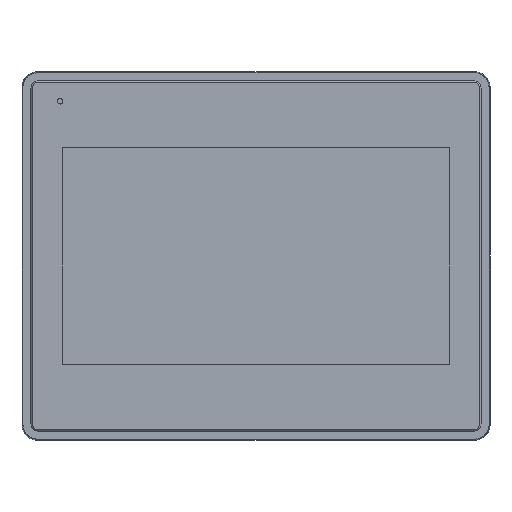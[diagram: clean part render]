
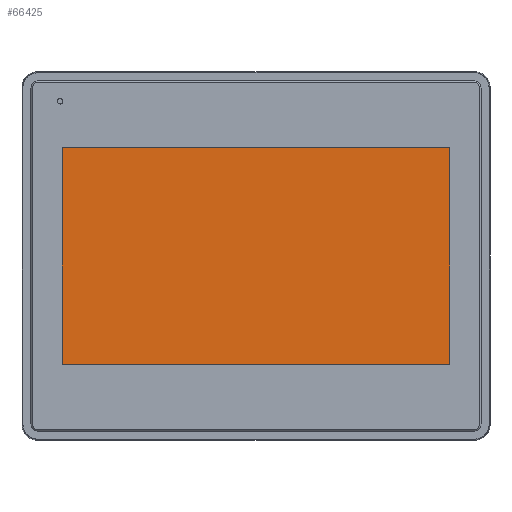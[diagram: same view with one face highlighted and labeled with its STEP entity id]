
A CAD part, top view. The second image highlights one B-rep face of the part: STEP entity #66425.
In plain terms, the highlighted planar face has unit normal (0, 0, 1).
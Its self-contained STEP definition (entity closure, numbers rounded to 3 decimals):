
#4940 = VECTOR ( 'NONE', #74351, 1000. ) ;
#11351 = CARTESIAN_POINT ( 'NONE',  ( -77.61, 43.46, 7. ) ) ;
#11391 = LINE ( 'NONE', #83241, #51413 ) ;
#16257 = ORIENTED_EDGE ( 'NONE', *, *, #19846, .F. ) ;
#19846 = EDGE_CURVE ( 'NONE', #75599, #81136, #47876, .T. ) ;
#20160 = EDGE_CURVE ( 'NONE', #81136, #29263, #11391, .T. ) ;
#23568 = FACE_OUTER_BOUND ( 'NONE', #45152, .T. ) ;
#24619 = ORIENTED_EDGE ( 'NONE', *, *, #20160, .F. ) ;
#25412 = PLANE ( 'NONE',  #59048 ) ;
#25540 = ORIENTED_EDGE ( 'NONE', *, *, #61592, .F. ) ;
#29263 = VERTEX_POINT ( 'NONE', #48612 ) ;
#32381 = LINE ( 'NONE', #88856, #4940 ) ;
#40886 = DIRECTION ( 'NONE',  ( 0., 1., 0. ) ) ;
#45152 = EDGE_LOOP ( 'NONE', ( #16257, #25540, #88552, #24619 ) ) ;
#46357 = CARTESIAN_POINT ( 'NONE',  ( 77.6, -43.46, 7. ) ) ;
#46742 = VECTOR ( 'NONE', #76548, 1000. ) ;
#47317 = DIRECTION ( 'NONE',  ( 1., 0., 0. ) ) ;
#47876 = LINE ( 'NONE', #76331, #73760 ) ;
#48612 = CARTESIAN_POINT ( 'NONE',  ( 77.6, 43.46, 7. ) ) ;
#51413 = VECTOR ( 'NONE', #47317, 1000. ) ;
#52058 = DIRECTION ( 'NONE',  ( 1., 0., 0. ) ) ;
#53003 = DIRECTION ( 'NONE',  ( 0., 0., 1. ) ) ;
#55086 = CARTESIAN_POINT ( 'NONE',  ( -77.61, -43.46, 7. ) ) ;
#59048 = AXIS2_PLACEMENT_3D ( 'NONE', #60463, #53003, #52058 ) ;
#60463 = CARTESIAN_POINT ( 'NONE',  ( -77.4, 43.26, 7. ) ) ;
#61592 = EDGE_CURVE ( 'NONE', #88929, #75599, #69999, .T. ) ;
#64292 = CARTESIAN_POINT ( 'NONE',  ( -77.61, -43.46, 7. ) ) ;
#66425 = ADVANCED_FACE ( 'NONE', ( #23568 ), #25412, .T. ) ;
#69999 = LINE ( 'NONE', #55086, #46742 ) ;
#73760 = VECTOR ( 'NONE', #40886, 1000. ) ;
#74351 = DIRECTION ( 'NONE',  ( 0., -1., 0. ) ) ;
#75599 = VERTEX_POINT ( 'NONE', #64292 ) ;
#76331 = CARTESIAN_POINT ( 'NONE',  ( -77.61, 43.46, 7. ) ) ;
#76548 = DIRECTION ( 'NONE',  ( -1., 0., 0. ) ) ;
#81136 = VERTEX_POINT ( 'NONE', #11351 ) ;
#83241 = CARTESIAN_POINT ( 'NONE',  ( -77.61, 43.46, 7. ) ) ;
#88552 = ORIENTED_EDGE ( 'NONE', *, *, #90714, .F. ) ;
#88856 = CARTESIAN_POINT ( 'NONE',  ( 77.6, 43.46, 7. ) ) ;
#88929 = VERTEX_POINT ( 'NONE', #46357 ) ;
#90714 = EDGE_CURVE ( 'NONE', #29263, #88929, #32381, .T. ) ;
